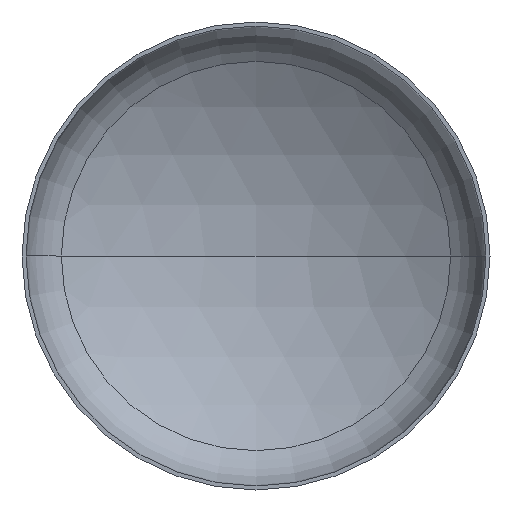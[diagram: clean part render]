
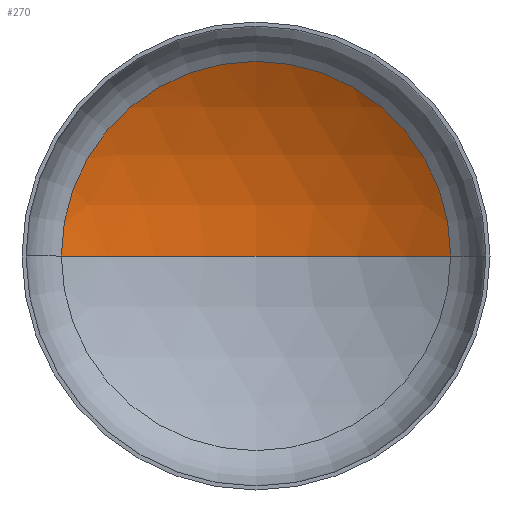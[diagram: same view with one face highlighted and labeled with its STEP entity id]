
A CAD part, front view. The second image highlights one B-rep face of the part: STEP entity #270.
In plain terms, the highlighted spherical face has radius 560 mm.
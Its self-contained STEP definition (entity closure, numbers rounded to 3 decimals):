
#10 = EDGE_LOOP ( 'NONE', ( #15, #100, #16 ) ) ;
#15 = ORIENTED_EDGE ( 'NONE', *, *, #246, .F. ) ;
#16 = ORIENTED_EDGE ( 'NONE', *, *, #238, .T. ) ;
#19 = VERTEX_POINT ( 'NONE', #292 ) ;
#34 = DIRECTION ( 'NONE',  ( 0., 0., 1. ) ) ;
#37 = CARTESIAN_POINT ( 'NONE',  ( 0., -364.375, 0. ) ) ;
#74 = VERTEX_POINT ( 'NONE', #237 ) ;
#81 = VERTEX_POINT ( 'NONE', #236 ) ;
#85 = CARTESIAN_POINT ( 'NONE',  ( 0., -364.375, 0. ) ) ;
#90 = DIRECTION ( 'NONE',  ( 1., 0., 0. ) ) ;
#100 = ORIENTED_EDGE ( 'NONE', *, *, #242, .T. ) ;
#110 = AXIS2_PLACEMENT_3D ( 'NONE', #85, #247, #380 ) ;
#114 = AXIS2_PLACEMENT_3D ( 'NONE', #37, #34, #90 ) ;
#120 = AXIS2_PLACEMENT_3D ( 'NONE', #239, #177, #175 ) ;
#123 = AXIS2_PLACEMENT_3D ( 'NONE', #284, #283, #281 ) ;
#175 = DIRECTION ( 'NONE',  ( -1., 0., 0. ) ) ;
#177 = DIRECTION ( 'NONE',  ( 0., 0., -1. ) ) ;
#196 = SPHERICAL_SURFACE ( 'NONE', #110, 560. ) ;
#204 = CIRCLE ( 'NONE', #120, 560. ) ;
#236 = CARTESIAN_POINT ( 'NONE',  ( 0., 195.625, 0. ) ) ;
#237 = CARTESIAN_POINT ( 'NONE',  ( 291.2, 113.958, 0. ) ) ;
#238 = EDGE_CURVE ( 'NONE', #74, #19, #272, .T. ) ;
#239 = CARTESIAN_POINT ( 'NONE',  ( 0., -364.375, 0. ) ) ;
#242 = EDGE_CURVE ( 'NONE', #81, #74, #204, .T. ) ;
#246 = EDGE_CURVE ( 'NONE', #81, #19, #384, .T. ) ;
#247 = DIRECTION ( 'NONE',  ( 0., 0., -1. ) ) ;
#270 = ADVANCED_FACE ( 'NONE', ( #324 ), #196, .F. ) ;
#272 = CIRCLE ( 'NONE', #123, 291.2 ) ;
#281 = DIRECTION ( 'NONE',  ( 1., 0., 0. ) ) ;
#283 = DIRECTION ( 'NONE',  ( 0., -1., 0. ) ) ;
#284 = CARTESIAN_POINT ( 'NONE',  ( 0., 113.958, 0. ) ) ;
#292 = CARTESIAN_POINT ( 'NONE',  ( -291.2, 113.958, 0. ) ) ;
#324 = FACE_OUTER_BOUND ( 'NONE', #10, .T. ) ;
#380 = DIRECTION ( 'NONE',  ( -1., 0., 0. ) ) ;
#384 = CIRCLE ( 'NONE', #114, 560. ) ;
